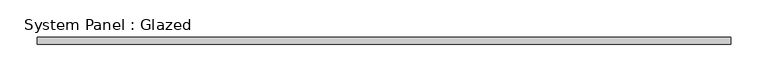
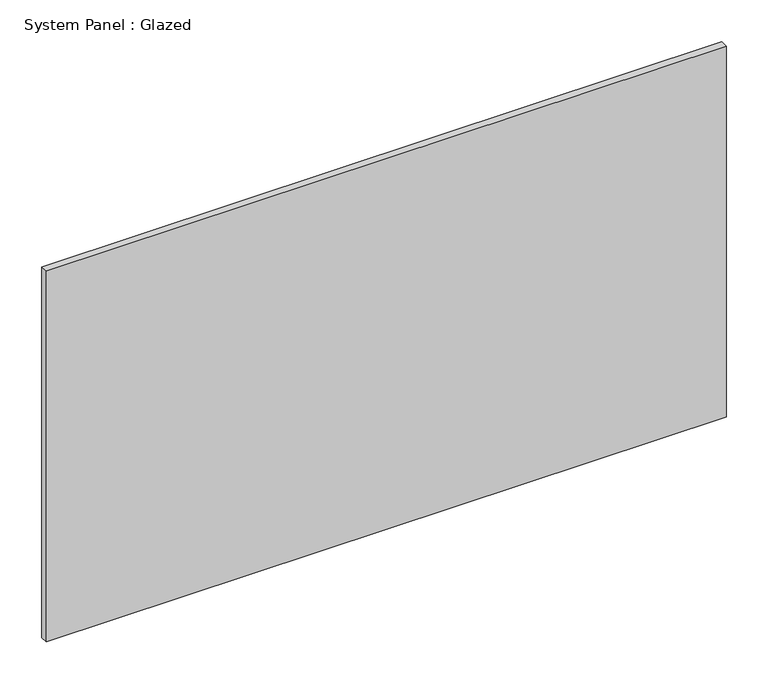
"""IFC4 building model written with IfcOpenShell, lengths in millimetres: plate geometry, System Panel : Glazed."""

from ifc_helpers import new_model, si_unit, origin, origin_with_axes, place, context, project, spatial, polyline, outline, extrude, source, transform, mapped, element, save


def system_panel_glazed_0c34ed68(model_context):
    return source(origin(), model_context, "Body", "SweptSolid", [
        extrude(outline(polyline([(468.1249907, -5.0), (-468.1249907, -5.0), (-468.1249907, 5.0), (468.1249907, 5.0), (468.1249907, -5.0)])), origin_with_axes(), (0.0, 0.0, 1.0), 540.0),
    ])


if __name__ == "__main__":
    model = new_model("IFC4")
    model_context = context("Model", 3, world=origin())
    ifc_project = project(units=[si_unit("LENGTHUNIT", "METRE", prefix="MILLI")], contexts=[model_context])
    site = spatial("IfcSite", under=ifc_project)
    building = spatial("IfcBuilding", under=site)
    placement = place(None, origin())
    system_panel_glazed_shape = system_panel_glazed_0c34ed68(model_context)
    element("IfcPlate", 1, ObjectType="System Panel : Glazed", at=placement, inside=building, context=model_context, shape_type="MappedRepresentation", body=[
        mapped(system_panel_glazed_shape, transform((0.0, 0.0, 0.0), x_axis=(1.0, 0.0, 0.0), y_axis=(0.0, 1.0, 0.0), z_axis=(0.0, 0.0, 1.0))),
    ])
    save(model, "model.ifc")
